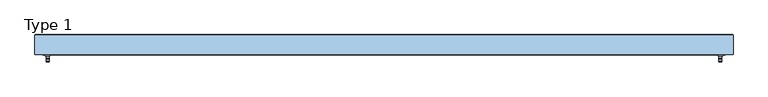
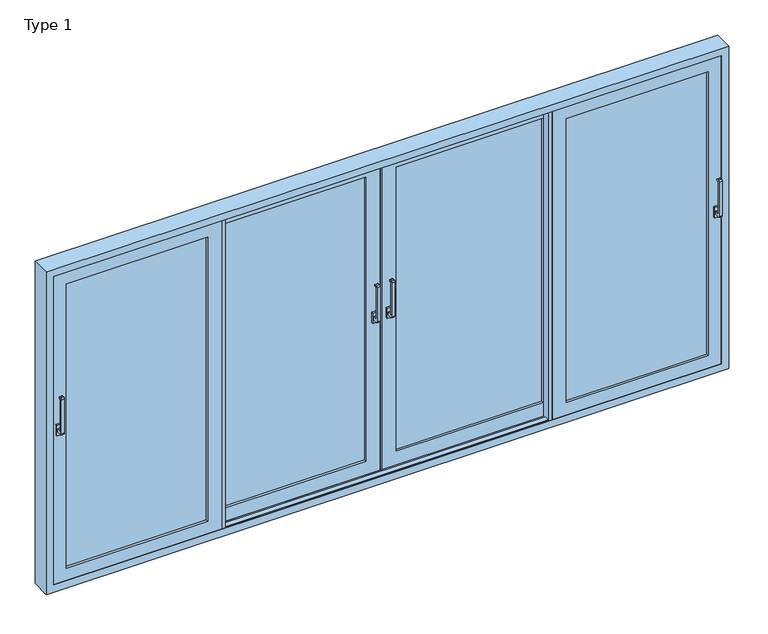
"""IFC4 building model written with IfcOpenShell, lengths in millimetres: window geometry, ETEM_E50_Quadruple_Lift_Sliding : Type 1."""

from ifc_helpers import new_model, si_unit, point, frame, frame_2d, origin, place, context, project, spatial, polyline, circle_curve, trimmed, segment, composite_curve, outline, extrude, faceted_brep, source, transform, mapped, element, save


def type_1_4424d691(model_context):
    return source(origin(), model_context, "Body", "SolidModel", [
        extrude(outline(composite_curve([segment(polyline([(-28.6518056, 1090.0), (-60.2254904, 1090.0)]), True, "CONTINUOUS"), segment(trimmed(circle_curve(frame_2d((-60.2254904, 1098.4263152)), 8.4263152), [point((-60.2254904, 1090.0))], [point((-68.6518056, 1098.4263152))], False, "CARTESIAN"), True, "CONTINUOUS"), segment(polyline([(-68.6518056, 1098.4263152), (-68.6518056, 1331.5736848)]), True, "CONTINUOUS"), segment(trimmed(circle_curve(frame_2d((-60.2254904, 1331.5736848)), 8.4263152), [point((-68.6518056, 1331.5736848))], [point((-60.2254904, 1340.0))], False, "CARTESIAN"), True, "CONTINUOUS"), segment(polyline([(-60.2254904, 1340.0), (-48.6518056, 1340.0)]), True, "CONTINUOUS"), segment(trimmed(circle_curve(frame_2d((-48.6518056, 1335.0)), 5.0), [point((-48.6518056, 1340.0))], [point((-48.6518056, 1330.0))], False, "CARTESIAN"), True, "CONTINUOUS"), segment(polyline([(-48.6518056, 1330.0), (-55.1162717, 1330.0)]), True, "CONTINUOUS"), segment(trimmed(circle_curve(frame_2d((-55.1162717, 1326.4644661)), 3.5355339), [point((-55.1162717, 1330.0))], [point((-58.6518056, 1326.4644661))], True, "CARTESIAN"), True, "CONTINUOUS"), segment(polyline([(-58.6518056, 1326.4644661), (-58.6518056, 1113.5355339)]), True, "CONTINUOUS"), segment(trimmed(circle_curve(frame_2d((-55.1162717, 1113.5355339)), 3.5355339), [point((-58.6518056, 1113.5355339))], [point((-55.1162717, 1110.0))], True, "CARTESIAN"), True, "CONTINUOUS"), segment(polyline([(-55.1162717, 1110.0), (-28.6518056, 1110.0), (-28.6518056, 1090.0)]), True, "CONTINUOUS")], self_intersect=False)), frame((2109.999965, 0.0, 0.0), z_axis=(1.0, 0.0, 0.0), x_axis=(0.0, 1.0, 0.0)), (0.0, 0.0, 1.0), 20.0),
        extrude(outline(polyline([(2104.999965, -28.6518056), (2104.999965, -15.6518056), (2134.999965, -15.6518056), (2134.999965, -28.6518056), (2104.999965, -28.6518056)])), frame((0.0, 0.0, 1065.0), z_axis=(0.0, 0.0, 1.0), x_axis=(1.0, 0.0, 0.0)), (0.0, 0.0, 1.0), 70.0),
        extrude(outline(composite_curve([segment(polyline([(-28.6518056, 1090.0), (-60.2254904, 1090.0)]), True, "CONTINUOUS"), segment(trimmed(circle_curve(frame_2d((-60.2254904, 1098.4263152)), 8.4263152), [point((-60.2254904, 1090.0))], [point((-68.6518056, 1098.4263152))], False, "CARTESIAN"), True, "CONTINUOUS"), segment(polyline([(-68.6518056, 1098.4263152), (-68.6518056, 1331.5736848)]), True, "CONTINUOUS"), segment(trimmed(circle_curve(frame_2d((-60.2254904, 1331.5736848)), 8.4263152), [point((-68.6518056, 1331.5736848))], [point((-60.2254904, 1340.0))], False, "CARTESIAN"), True, "CONTINUOUS"), segment(polyline([(-60.2254904, 1340.0), (-48.6518056, 1340.0)]), True, "CONTINUOUS"), segment(trimmed(circle_curve(frame_2d((-48.6518056, 1335.0)), 5.0), [point((-48.6518056, 1340.0))], [point((-48.6518056, 1330.0))], False, "CARTESIAN"), True, "CONTINUOUS"), segment(polyline([(-48.6518056, 1330.0), (-55.1162717, 1330.0)]), True, "CONTINUOUS"), segment(trimmed(circle_curve(frame_2d((-55.1162717, 1326.4644661)), 3.5355339), [point((-55.1162717, 1330.0))], [point((-58.6518056, 1326.4644661))], True, "CARTESIAN"), True, "CONTINUOUS"), segment(polyline([(-58.6518056, 1326.4644661), (-58.6518056, 1113.5355339)]), True, "CONTINUOUS"), segment(trimmed(circle_curve(frame_2d((-55.1162717, 1113.5355339)), 3.5355339), [point((-58.6518056, 1113.5355339))], [point((-55.1162717, 1110.0))], True, "CARTESIAN"), True, "CONTINUOUS"), segment(polyline([(-55.1162717, 1110.0), (-28.6518056, 1110.0), (-28.6518056, 1090.0)]), True, "CONTINUOUS")], self_intersect=False)), frame((-2129.999965, 0.0, 0.0), z_axis=(1.0, 0.0, 0.0), x_axis=(0.0, 1.0, 0.0)), (0.0, 0.0, 1.0), 20.0),
        extrude(outline(polyline([(-2134.999965, -28.6518056), (-2134.999965, -15.6518056), (-2104.999965, -15.6518056), (-2104.999965, -28.6518056), (-2134.999965, -28.6518056)])), frame((0.0, 0.0, 1065.0), z_axis=(0.0, 0.0, 1.0), x_axis=(1.0, 0.0, 0.0)), (0.0, 0.0, 1.0), 70.0),
        extrude(outline(composite_curve([segment(polyline([(36.3481944, 1090.0), (4.7745096, 1090.0)]), True, "CONTINUOUS"), segment(trimmed(circle_curve(frame_2d((4.7745096, 1098.4263152)), 8.4263152), [point((4.7745096, 1090.0))], [point((-3.6518056, 1098.4263152))], False, "CARTESIAN"), True, "CONTINUOUS"), segment(polyline([(-3.6518056, 1098.4263152), (-3.6518056, 1331.5736848)]), True, "CONTINUOUS"), segment(trimmed(circle_curve(frame_2d((4.7745096, 1331.5736848)), 8.4263152), [point((-3.6518056, 1331.5736848))], [point((4.7745096, 1340.0))], False, "CARTESIAN"), True, "CONTINUOUS"), segment(polyline([(4.7745096, 1340.0), (16.3481944, 1340.0)]), True, "CONTINUOUS"), segment(trimmed(circle_curve(frame_2d((16.3481944, 1335.0)), 5.0), [point((16.3481944, 1340.0))], [point((16.3481944, 1330.0))], False, "CARTESIAN"), True, "CONTINUOUS"), segment(polyline([(16.3481944, 1330.0), (9.8837283, 1330.0)]), True, "CONTINUOUS"), segment(trimmed(circle_curve(frame_2d((9.8837283, 1326.4644661)), 3.5355339), [point((9.8837283, 1330.0))], [point((6.3481944, 1326.4644661))], True, "CARTESIAN"), True, "CONTINUOUS"), segment(polyline([(6.3481944, 1326.4644661), (6.3481944, 1113.5355339)]), True, "CONTINUOUS"), segment(trimmed(circle_curve(frame_2d((9.8837283, 1113.5355339)), 3.5355339), [point((6.3481944, 1113.5355339))], [point((9.8837283, 1110.0))], True, "CARTESIAN"), True, "CONTINUOUS"), segment(polyline([(9.8837283, 1110.0), (36.3481944, 1110.0), (36.3481944, 1090.0)]), True, "CONTINUOUS")], self_intersect=False)), frame((-57.5, 0.0, 0.0), z_axis=(1.0, 0.0, 0.0), x_axis=(0.0, 1.0, 0.0)), (0.0, 0.0, 1.0), 20.0),
        extrude(outline(polyline([(-62.5, 36.3481944), (-62.5, 49.3481944), (-32.5, 49.3481944), (-32.5, 36.3481944), (-62.5, 36.3481944)])), frame((0.0, 0.0, 1065.0), z_axis=(0.0, 0.0, 1.0), x_axis=(1.0, 0.0, 0.0)), (0.0, 0.0, 1.0), 70.0),
        extrude(outline(composite_curve([segment(polyline([(36.3481944, 1090.0), (4.7745096, 1090.0)]), True, "CONTINUOUS"), segment(trimmed(circle_curve(frame_2d((4.7745096, 1098.4263152)), 8.4263152), [point((4.7745096, 1090.0))], [point((-3.6518056, 1098.4263152))], False, "CARTESIAN"), True, "CONTINUOUS"), segment(polyline([(-3.6518056, 1098.4263152), (-3.6518056, 1331.5736848)]), True, "CONTINUOUS"), segment(trimmed(circle_curve(frame_2d((4.7745096, 1331.5736848)), 8.4263152), [point((-3.6518056, 1331.5736848))], [point((4.7745096, 1340.0))], False, "CARTESIAN"), True, "CONTINUOUS"), segment(polyline([(4.7745096, 1340.0), (16.3481944, 1340.0)]), True, "CONTINUOUS"), segment(trimmed(circle_curve(frame_2d((16.3481944, 1335.0)), 5.0), [point((16.3481944, 1340.0))], [point((16.3481944, 1330.0))], False, "CARTESIAN"), True, "CONTINUOUS"), segment(polyline([(16.3481944, 1330.0), (9.8837283, 1330.0)]), True, "CONTINUOUS"), segment(trimmed(circle_curve(frame_2d((9.8837283, 1326.4644661)), 3.5355339), [point((9.8837283, 1330.0))], [point((6.3481944, 1326.4644661))], True, "CARTESIAN"), True, "CONTINUOUS"), segment(polyline([(6.3481944, 1326.4644661), (6.3481944, 1113.5355339)]), True, "CONTINUOUS"), segment(trimmed(circle_curve(frame_2d((9.8837283, 1113.5355339)), 3.5355339), [point((6.3481944, 1113.5355339))], [point((9.8837283, 1110.0))], True, "CARTESIAN"), True, "CONTINUOUS"), segment(polyline([(9.8837283, 1110.0), (36.3481944, 1110.0), (36.3481944, 1090.0)]), True, "CONTINUOUS")], self_intersect=False)), frame((37.5, 0.0, 0.0), z_axis=(1.0, 0.0, 0.0), x_axis=(0.0, 1.0, 0.0)), (0.0, 0.0, 1.0), 20.0),
        extrude(outline(polyline([(62.5, 36.3481944), (32.5, 36.3481944), (32.5, 49.3481944), (62.5, 49.3481944), (62.5, 36.3481944)])), frame((0.0, 0.0, 1065.0), z_axis=(0.0, 0.0, 1.0), x_axis=(1.0, 0.0, 0.0)), (0.0, 0.0, 1.0), 70.0),
        faceted_brep([(1044.0, 49.3481944, 2069.0), (1044.0, 99.3481944, 2069.0), (1044.0, 99.3481944, 131.0), (1044.0, 49.3481944, 131.0), (1135.5, 99.3481944, 39.5), (7.0252518, 99.3481944, 39.5), (7.0252518, 99.3481944, 2160.5), (1135.5, 99.3481944, 2160.5), (98.5252518, 99.3481944, 2069.0), (98.5252518, 99.3481944, 131.0), (98.5252518, 49.3481944, 131.0), (1135.5, 49.3481944, 2160.5), (7.0252518, 49.3481944, 2160.5), (7.0252518, 49.3481944, 39.5), (1135.5, 49.3481944, 39.5), (98.5252518, 49.3481944, 2069.0), (1135.5, 54.0481944, 2160.5), (1135.5, 54.0481944, 39.5), (7.0252518, 54.0481944, 39.5), (7.0252518, 54.0481944, 2160.5), (1106.3, 54.0481944, 2131.3), (36.2252518, 54.0481944, 2131.3), (36.2252518, 54.0481944, 68.7), (1106.3, 54.0481944, 68.7), (1106.3, 94.6481944, 2131.3), (1106.3, 94.6481944, 68.7), (36.2252518, 94.6481944, 68.7), (1135.5, 94.6481944, 2160.5), (7.0252518, 94.6481944, 2160.5), (7.0252518, 94.6481944, 39.5), (1135.5, 94.6481944, 39.5), (36.2252518, 94.6481944, 2131.3)], [[[0, 1, 2, 3]], [[4, 5, 6, 7], [1, 8, 9, 2]], [[3, 2, 9, 10]], [[11, 12, 13, 14], [3, 10, 15, 0]], [[16, 11, 14, 17]], [[17, 14, 13, 18]], [[17, 18, 19, 16], [20, 21, 22, 23]], [[24, 20, 23, 25]], [[25, 23, 22, 26]], [[27, 28, 29, 30], [25, 26, 31, 24]], [[7, 27, 30, 4]], [[4, 30, 29, 5]], [[10, 9, 8, 15]], [[18, 13, 12, 19]], [[26, 22, 21, 31]], [[5, 29, 28, 6]], [[15, 8, 1, 0]], [[19, 12, 11, 16]], [[31, 21, 20, 24]], [[6, 28, 27, 7]]]),
        extrude(outline(polyline([(1156.0, 38.3481944), (1135.5, 38.3481944), (1135.5, 99.3481944), (1156.0, 99.3481944), (1156.0, 38.3481944)])), frame((0.0, 0.0, 39.5), z_axis=(0.0, 0.0, 1.0), x_axis=(1.0, 0.0, 0.0)), (0.0, 0.0, 1.0), 2121.0),
        extrude(outline(polyline([(1044.0, 45.3481944), (1064.5, 45.3481944), (1064.5, -15.6518056), (1044.0, -15.6518056), (1044.0, 45.3481944)])), frame((0.0, 0.0, 39.5), z_axis=(0.0, 0.0, 1.0), x_axis=(1.0, 0.0, 0.0)), (0.0, 0.0, 1.0), 2121.0),
        extrude(outline(polyline([(98.5, 91.3480733), (1044.0, 91.3480733), (1044.0, 86.3480733), (98.5, 86.3480733), (98.5, 91.3480733)])), frame((0.0, 0.0, 131.0), z_axis=(0.0, 0.0, 1.0), x_axis=(1.0, 0.0, 0.0)), (0.0, 0.0, 1.0), 1938.0),
        extrude(outline(polyline([(1156.0, 26.3481944), (2068.999965, 26.3481944), (2068.999965, 21.3481944), (1156.0, 21.3481944), (1156.0, 26.3481944)])), frame((0.0, 0.0, 131.0), z_axis=(0.0, 0.0, 1.0), x_axis=(1.0, 0.0, 0.0)), (0.0, 0.0, 1.0), 1938.0),
        extrude(outline(polyline([(98.5, 70.3481944), (1044.0, 70.3481944), (1044.0, 65.3481944), (98.5, 65.3481944), (98.5, 70.3481944)])), frame((0.0, 0.0, 131.0), z_axis=(0.0, 0.0, 1.0), x_axis=(1.0, 0.0, 0.0)), (0.0, 0.0, 1.0), 1938.0),
        extrude(outline(polyline([(1156.0, 5.3481944), (2068.999965, 5.3481944), (2068.999965, 0.3481944), (1156.0, 0.3481944), (1156.0, 5.3481944)])), frame((0.0, 0.0, 131.0), z_axis=(0.0, 0.0, 1.0), x_axis=(1.0, 0.0, 0.0)), (0.0, 0.0, 1.0), 1938.0),
        faceted_brep([(-98.5252518, 49.3481944, 2069.0), (-98.5252518, 99.3481944, 2069.0), (-98.5252518, 99.3481944, 131.0), (-98.5252518, 49.3481944, 131.0), (-7.0252518, 99.3481944, 39.5), (-1135.5, 99.3481944, 39.5), (-1135.5, 99.3481944, 2160.5), (-7.0252518, 99.3481944, 2160.5), (-1044.0, 99.3481944, 2069.0), (-1044.0, 99.3481944, 131.0), (-1044.0, 49.3481944, 131.0), (-7.0252518, 49.3481944, 2160.5), (-1135.5, 49.3481944, 2160.5), (-1135.5, 49.3481944, 39.5), (-7.0252518, 49.3481944, 39.5), (-1044.0, 49.3481944, 2069.0), (-7.0252518, 54.0481944, 2160.5), (-7.0252518, 54.0481944, 39.5), (-1135.5, 54.0481944, 39.5), (-1135.5, 54.0481944, 2160.5), (-36.2252518, 54.0481944, 2131.3), (-1106.3, 54.0481944, 2131.3), (-1106.3, 54.0481944, 68.7), (-36.2252518, 54.0481944, 68.7), (-36.2252518, 94.6481944, 2131.3), (-36.2252518, 94.6481944, 68.7), (-1106.3, 94.6481944, 68.7), (-7.0252518, 94.6481944, 2160.5), (-1135.5, 94.6481944, 2160.5), (-1135.5, 94.6481944, 39.5), (-7.0252518, 94.6481944, 39.5), (-1106.3, 94.6481944, 2131.3)], [[[0, 1, 2, 3]], [[4, 5, 6, 7], [1, 8, 9, 2]], [[3, 2, 9, 10]], [[11, 12, 13, 14], [3, 10, 15, 0]], [[16, 11, 14, 17]], [[17, 14, 13, 18]], [[17, 18, 19, 16], [20, 21, 22, 23]], [[24, 20, 23, 25]], [[25, 23, 22, 26]], [[27, 28, 29, 30], [25, 26, 31, 24]], [[7, 27, 30, 4]], [[4, 30, 29, 5]], [[10, 9, 8, 15]], [[18, 13, 12, 19]], [[26, 22, 21, 31]], [[5, 29, 28, 6]], [[15, 8, 1, 0]], [[19, 12, 11, 16]], [[31, 21, 20, 24]], [[6, 28, 27, 7]]]),
        extrude(outline(polyline([(-1044.0, 91.3480733), (-98.5, 91.3480733), (-98.5, 86.3480733), (-1044.0, 86.3480733), (-1044.0, 91.3480733)])), frame((0.0, 0.0, 131.0), z_axis=(0.0, 0.0, 1.0), x_axis=(1.0, 0.0, 0.0)), (0.0, 0.0, 1.0), 1938.0),
        extrude(outline(polyline([(-1044.0, 70.3481944), (-98.5, 70.3481944), (-98.5, 65.3481944), (-1044.0, 65.3481944), (-1044.0, 70.3481944)])), frame((0.0, 0.0, 131.0), z_axis=(0.0, 0.0, 1.0), x_axis=(1.0, 0.0, 0.0)), (0.0, 0.0, 1.0), 1938.0),
        faceted_brep([(-1156.0, -15.6518056, 2069.0), (-1156.0, 34.3481944, 2069.0), (-1156.0, 34.3481944, 131.0), (-1156.0, -15.6518056, 131.0), (-2068.999965, 34.3481944, 131.0), (-2068.999965, -15.6518056, 131.0), (-2160.499965, 34.3481944, 39.5), (-2160.499965, 34.3481944, 2160.5), (-1064.5, 34.3481944, 2160.5), (-1064.5, 34.3481944, 39.5), (-2068.999965, 34.3481944, 2069.0), (-2068.999965, -15.6518056, 2069.0), (-1064.5, -15.6518056, 39.5), (-1064.5, -15.6518056, 2160.5), (-2160.499965, -15.6518056, 2160.5), (-2160.499965, -15.6518056, 39.5), (-1064.5, -10.9518056, 2160.5), (-1064.5, -10.9518056, 39.5), (-2160.499965, -10.9518056, 39.5), (-2160.499965, -10.9518056, 2160.5), (-1093.7, -10.9518056, 68.7), (-1093.7, -10.9518056, 2131.3), (-2131.299965, -10.9518056, 2131.3), (-2131.299965, -10.9518056, 68.7), (-1093.7, 29.6481944, 2131.3), (-1093.7, 29.6481944, 68.7), (-2131.299965, 29.6481944, 68.7), (-2131.299965, 29.6481944, 2131.3), (-1064.5, 29.6481944, 39.5), (-1064.5, 29.6481944, 2160.5), (-2160.499965, 29.6481944, 2160.5), (-2160.499965, 29.6481944, 39.5)], [[[0, 1, 2, 3]], [[3, 2, 4, 5]], [[6, 7, 8, 9], [2, 1, 10, 4]], [[5, 4, 10, 11]], [[12, 13, 14, 15], [5, 11, 0, 3]], [[16, 13, 12, 17]], [[17, 12, 15, 18]], [[18, 15, 14, 19]], [[18, 19, 16, 17], [20, 21, 22, 23]], [[24, 21, 20, 25]], [[25, 20, 23, 26]], [[26, 23, 22, 27]], [[28, 29, 30, 31], [26, 27, 24, 25]], [[8, 29, 28, 9]], [[9, 28, 31, 6]], [[6, 31, 30, 7]], [[11, 10, 1, 0]], [[19, 14, 13, 16]], [[27, 22, 21, 24]], [[7, 30, 29, 8]]]),
        extrude(outline(polyline([(-1044.0, 45.3481944), (-1044.0, -15.6518056), (-1064.5, -15.6518056), (-1064.5, 45.3481944), (-1044.0, 45.3481944)])), frame((0.0, 0.0, 39.5), z_axis=(0.0, 0.0, 1.0), x_axis=(1.0, 0.0, 0.0)), (0.0, 0.0, 1.0), 2121.0),
        extrude(outline(polyline([(-1156.0, 38.3481944), (-1156.0, 99.3481944), (-1135.5, 99.3481944), (-1135.5, 38.3481944), (-1156.0, 38.3481944)])), frame((0.0, 0.0, 39.5), z_axis=(0.0, 0.0, 1.0), x_axis=(1.0, 0.0, 0.0)), (0.0, 0.0, 1.0), 2121.0),
        extrude(outline(polyline([(-2068.999965, 26.3480733), (-1156.0, 26.3480733), (-1156.0, 21.3480733), (-2068.999965, 21.3480733), (-2068.999965, 26.3480733)])), frame((0.0, 0.0, 131.0), z_axis=(0.0, 0.0, 1.0), x_axis=(1.0, 0.0, 0.0)), (0.0, 0.0, 1.0), 1938.0),
        extrude(outline(polyline([(-2068.999965, 5.3481944), (-1156.0, 5.3481944), (-1156.0, 0.3481944), (-2068.999965, 0.3481944), (-2068.999965, 5.3481944)])), frame((0.0, 0.0, 131.0), z_axis=(0.0, 0.0, 1.0), x_axis=(1.0, 0.0, 0.0)), (0.0, 0.0, 1.0), 1938.0),
        extrude(outline(polyline([(3.5, 58.3481944), (3.5, 49.3481944), (-7.0252518, 49.3481944), (-7.0252518, 99.3481944), (3.5, 99.3481944), (3.5, 90.3481944), (16.0, 90.3481944), (16.0, 58.3481944), (3.5, 58.3481944)])), frame((0.0, 0.0, 39.5188293), z_axis=(0.0, 0.0, 1.0), x_axis=(1.0, 0.0, 0.0)), (0.0, 0.0, 1.0), 2120.9623414),
        faceted_brep([(2068.999965, -15.6518056, 2069.0), (2068.999965, 34.3481944, 2069.0), (2068.999965, 34.3481944, 131.0), (2068.999965, -15.6518056, 131.0), (1156.0, 34.3481944, 131.0), (1156.0, -15.6518056, 131.0), (1064.5, 34.3481944, 39.5), (1064.5, 34.3481944, 2160.5), (2160.499965, 34.3481944, 2160.5), (2160.499965, 34.3481944, 39.5), (1156.0, 34.3481944, 2069.0), (1156.0, -15.6518056, 2069.0), (2160.499965, -15.6518056, 39.5), (2160.499965, -15.6518056, 2160.5), (1064.5, -15.6518056, 2160.5), (1064.5, -15.6518056, 39.5), (2160.499965, -10.9518056, 2160.5), (2160.499965, -10.9518056, 39.5), (1064.5, -10.9518056, 39.5), (1064.5, -10.9518056, 2160.5), (2131.299965, -10.9518056, 68.7), (2131.299965, -10.9518056, 2131.3), (1093.7, -10.9518056, 2131.3), (1093.7, -10.9518056, 68.7), (2131.299965, 29.6481944, 2131.3), (2131.299965, 29.6481944, 68.7), (1093.7, 29.6481944, 68.7), (1093.7, 29.6481944, 2131.3), (2160.499965, 29.6481944, 39.5), (2160.499965, 29.6481944, 2160.5), (1064.5, 29.6481944, 2160.5), (1064.5, 29.6481944, 39.5)], [[[0, 1, 2, 3]], [[3, 2, 4, 5]], [[6, 7, 8, 9], [2, 1, 10, 4]], [[5, 4, 10, 11]], [[12, 13, 14, 15], [5, 11, 0, 3]], [[16, 13, 12, 17]], [[17, 12, 15, 18]], [[18, 15, 14, 19]], [[18, 19, 16, 17], [20, 21, 22, 23]], [[24, 21, 20, 25]], [[25, 20, 23, 26]], [[26, 23, 22, 27]], [[28, 29, 30, 31], [26, 27, 24, 25]], [[8, 29, 28, 9]], [[9, 28, 31, 6]], [[6, 31, 30, 7]], [[11, 10, 1, 0]], [[19, 14, 13, 16]], [[27, 22, 21, 24]], [[7, 30, 29, 8]]]),
        faceted_brep([(-2196.5, 105.0, 0.0), (-2196.5, 103.5481944, 0.0), (-2196.5, 103.5481944, 2196.5), (-2196.5, 105.0, 2196.5), (-2151.5, 105.0, 0.0), (2196.5, 105.0, 2196.5), (2196.5, 105.0, 0.0), (2151.5, 105.0, 0.0), (2151.5, 105.0, 2151.5), (-2151.5, 105.0, 2151.5), (-2151.5, 101.4, 2151.5), (-2151.5, 101.4, 19.8), (-2151.5, 103.5481944, 19.8), (-2151.5, 103.5481944, 0.0), (2151.5, 101.4, 2151.5), (2151.5, 103.5481944, 0.0), (2151.5, 103.5481944, 19.8), (2151.5, 101.4, 19.8), (2196.5, 103.5481944, 0.0), (2196.5, 103.5481944, 2196.5), (2200.0, 103.5481944, 2200.0), (2200.0, -21.2518056, 2200.0), (2200.0, -21.2518056, 0.0), (2200.0, 103.5481944, 0.0), (-2200.0, -21.2518056, 2200.0), (-2200.0, -21.2518056, 0.0), (2151.5, -21.2518056, 2151.5), (2151.5, -21.2518056, 48.5), (-2151.5, -21.2518056, 48.5), (-2151.5, -21.2518056, 2151.5), (-2200.0, 103.5481944, 0.0), (-2200.0, 103.5481944, 2200.0), (2178.2, 101.4, 2178.2), (2178.2, 101.4, 19.8), (2178.2, 92.0481944, 19.8), (2178.2, 92.0481944, 21.8), (2178.2, 78.8481944, 21.8), (2178.2, 78.8481944, 2178.2), (-2178.2, 92.0481944, 21.8), (-2178.2, 78.8481944, 21.8), (-2178.2, 78.8481944, 2178.2), (2159.5, 78.8481944, 40.5), (2159.5, 78.8481944, 2159.5), (-2159.5, 78.8481944, 2159.5), (-2159.5, 78.8481944, 40.5), (2159.5, 90.3481944, 2159.5), (2159.5, 90.3481944, 40.5), (-2159.5, 90.3481944, 40.5), (-2159.5, 90.3481944, 2159.5), (2151.5, 90.3481944, 48.5), (2151.5, 90.3481944, 2151.5), (-2151.5, 90.3481944, 2151.5), (-2151.5, 90.3481944, 48.5), (2151.5, 58.3481944, 2151.5), (2151.5, 58.3481944, 48.5), (-2151.5, 58.3481944, 48.5), (2159.5, 58.3481944, 40.5), (2159.5, 58.3481944, 2159.5), (-2159.5, 58.3481944, 2159.5), (-2159.5, 58.3481944, 40.5), (-2151.5, 58.3481944, 2151.5), (2159.5, 69.8481944, 2159.5), (2159.5, 69.8481944, 40.5), (-2159.5, 69.8481944, 40.5), (2178.2, 69.8481944, 21.8), (2178.2, 69.8481944, 2178.2), (-2178.2, 69.8481944, 2178.2), (-2178.2, 69.8481944, 21.8), (-2159.5, 69.8481944, 2159.5), (2178.2, 13.8481944, 2178.2), (2178.2, 13.8481944, 21.8), (-2178.2, 13.8481944, 21.8), (-2178.2, 13.8481944, 2178.2), (2159.5, 13.8481944, 40.5), (2159.5, 13.8481944, 2159.5), (-2159.5, 13.8481944, 2159.5), (-2159.5, 13.8481944, 40.5), (2159.5, 25.3481944, 2159.5), (2159.5, 25.3481944, 40.5), (-2159.5, 25.3481944, 40.5), (-2159.5, 25.3481944, 2159.5), (2151.5, 25.3481944, 48.5), (2151.5, 25.3481944, 2151.5), (-2151.5, 25.3481944, 2151.5), (-2151.5, 25.3481944, 48.5), (2151.5, -6.6518056, 2151.5), (2151.5, -6.6518056, 48.5), (-2151.5, -6.6518056, 48.5), (2159.5, -6.6518056, 40.5), (2159.5, -6.6518056, 2159.5), (-2159.5, -6.6518056, 2159.5), (-2159.5, -6.6518056, 40.5), (-2151.5, -6.6518056, 2151.5), (2159.5, 4.8481944, 2159.5), (2159.5, 4.8481944, 40.5), (-2159.5, 4.8481944, 40.5), (2178.2, 4.8481944, 21.8), (2178.2, 4.8481944, 2178.2), (-2178.2, 4.8481944, 2178.2), (-2178.2, 4.8481944, 21.8), (-2159.5, 4.8481944, 2159.5), (2178.2, -17.6518056, 2178.2), (2178.2, -17.6518056, 21.8), (-2178.2, -17.6518056, 21.8), (-2178.2, -17.6518056, 2178.2), (2151.5, -17.6518056, 48.5), (2151.5, -17.6518056, 2151.5), (-2151.5, -17.6518056, 2151.5), (-2151.5, -17.6518056, 48.5), (-2178.2, 92.0481944, 19.8), (-2178.2, 101.4, 19.8), (-2178.2, 101.4, 2178.2)], [[[0, 1, 2, 3]], [[4, 0, 3, 5, 6, 7, 8, 9]], [[4, 9, 10, 11, 12, 13]], [[14, 8, 7, 15, 16, 17]], [[18, 6, 5, 19]], [[19, 5, 3, 2]], [[8, 14, 10, 9]], [[20, 21, 22, 23]], [[22, 21, 24, 25], [26, 27, 28, 29]], [[23, 22, 25, 30, 1, 0, 4, 13, 15, 7, 6, 18]], [[20, 23, 18, 19, 2, 1, 30, 31]], [[15, 13, 12, 16]], [[32, 33, 34, 35, 36, 37]], [[36, 35, 38, 39]], [[37, 36, 39, 40], [41, 42, 43, 44]], [[45, 42, 41, 46]], [[46, 41, 44, 47]], [[45, 46, 47, 48], [49, 50, 51, 52]], [[53, 50, 49, 54]], [[54, 49, 52, 55]], [[56, 57, 58, 59], [53, 54, 55, 60]], [[61, 57, 56, 62]], [[62, 56, 59, 63]], [[64, 65, 66, 67], [61, 62, 63, 68]], [[69, 65, 64, 70]], [[70, 64, 67, 71]], [[69, 70, 71, 72], [73, 74, 75, 76]], [[77, 74, 73, 78]], [[78, 73, 76, 79]], [[77, 78, 79, 80], [81, 82, 83, 84]], [[85, 82, 81, 86]], [[86, 81, 84, 87]], [[88, 89, 90, 91], [85, 86, 87, 92]], [[93, 89, 88, 94]], [[94, 88, 91, 95]], [[96, 97, 98, 99], [93, 94, 95, 100]], [[101, 97, 96, 102]], [[102, 96, 99, 103]], [[101, 102, 103, 104], [105, 106, 107, 108]], [[26, 106, 105, 27]], [[27, 105, 108, 28]], [[30, 25, 24, 31]], [[39, 38, 109, 110, 111, 40]], [[47, 44, 43, 48]], [[55, 52, 51, 60]], [[63, 59, 58, 68]], [[71, 67, 66, 72]], [[79, 76, 75, 80]], [[87, 84, 83, 92]], [[95, 91, 90, 100]], [[103, 99, 98, 104]], [[28, 108, 107, 29]], [[21, 20, 31, 24]], [[32, 37, 40, 111]], [[42, 45, 48, 43]], [[50, 53, 60, 51]], [[57, 61, 68, 58]], [[65, 69, 72, 66]], [[74, 77, 80, 75]], [[82, 85, 92, 83]], [[89, 93, 100, 90]], [[97, 101, 104, 98]], [[106, 26, 29, 107]], [[10, 14, 17, 33, 32, 111, 110, 11]], [[16, 12, 11, 110, 109, 34, 33, 17]], [[38, 35, 34, 109]]]),
    ])


if __name__ == "__main__":
    model = new_model("IFC4")
    model_context = context("Model", 3, world=origin())
    ifc_project = project(units=[si_unit("LENGTHUNIT", "METRE", prefix="MILLI")], contexts=[model_context])
    site = spatial("IfcSite", under=ifc_project)
    building = spatial("IfcBuilding", under=site)
    placement = place(None, origin())
    type_1_shape = type_1_4424d691(model_context)
    element("IfcWindow", 1, ObjectType="ETEM_E50_Quadruple_Lift_Sliding : Type 1", at=placement, inside=building, context=model_context, shape_type="MappedRepresentation", body=[
        mapped(type_1_shape, transform((0.0, 0.0, 0.0), x_axis=(1.0, 0.0, 0.0), y_axis=(0.0, 1.0, 0.0), z_axis=(0.0, 0.0, 1.0))),
    ])
    save(model, "model.ifc")
